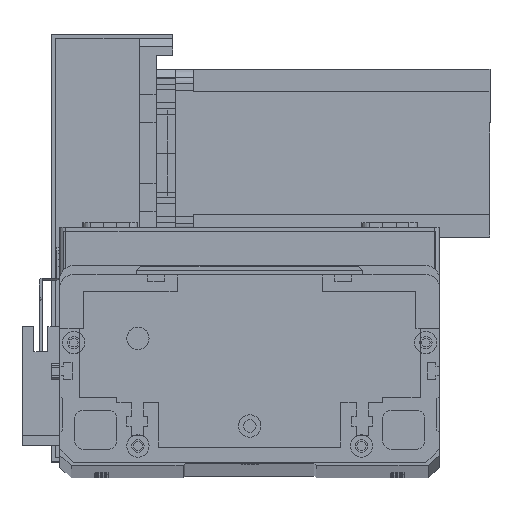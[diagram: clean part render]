
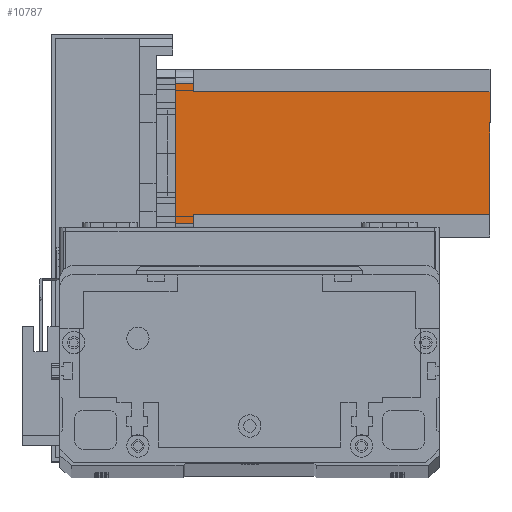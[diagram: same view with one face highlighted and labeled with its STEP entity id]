
A CAD part, top view. The second image highlights one B-rep face of the part: STEP entity #10787.
In plain terms, the highlighted planar face has unit normal (0, 0, 1) as drawn and (0, -1, 0) by its records, which use the part's own axes.
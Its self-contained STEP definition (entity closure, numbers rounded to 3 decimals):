
#87 = LINE ( 'NONE', #13329, #12113 ) ;
#624 = CARTESIAN_POINT ( 'NONE',  ( 55., 0., 0. ) ) ;
#720 = CARTESIAN_POINT ( 'NONE',  ( 8., 0., -6.5 ) ) ;
#2004 = EDGE_CURVE ( 'NONE', #5262, #24854, #10793, .T. ) ;
#3108 = VECTOR ( 'NONE', #14941, 1000. ) ;
#3176 = DIRECTION ( 'NONE',  ( 0., 0., -1. ) ) ;
#3180 = DIRECTION ( 'NONE',  ( 0., -1., 0. ) ) ;
#3463 = PLANE ( 'NONE',  #27594 ) ;
#3491 = CARTESIAN_POINT ( 'NONE',  ( 0., 0., -112.5 ) ) ;
#4127 = CARTESIAN_POINT ( 'NONE',  ( 52., 0., -112.5 ) ) ;
#4247 = LINE ( 'NONE', #5104, #23216 ) ;
#4261 = ORIENTED_EDGE ( 'NONE', *, *, #10134, .T. ) ;
#4957 = LINE ( 'NONE', #30048, #29331 ) ;
#5104 = CARTESIAN_POINT ( 'NONE',  ( 55., 0., -112.5 ) ) ;
#5262 = VERTEX_POINT ( 'NONE', #13301 ) ;
#5447 = DIRECTION ( 'NONE',  ( 0., 0., 1. ) ) ;
#6474 = VERTEX_POINT ( 'NONE', #7941 ) ;
#6553 = FACE_OUTER_BOUND ( 'NONE', #20382, .T. ) ;
#7225 = VERTEX_POINT ( 'NONE', #20981 ) ;
#7941 = CARTESIAN_POINT ( 'NONE',  ( 8., 0., -112.5 ) ) ;
#8792 = ORIENTED_EDGE ( 'NONE', *, *, #12158, .F. ) ;
#10134 = EDGE_CURVE ( 'NONE', #23799, #13361, #87, .T. ) ;
#10787 = ADVANCED_FACE ( 'NONE', ( #6553 ), #3463, .T. ) ;
#10793 = LINE ( 'NONE', #26783, #16324 ) ;
#11231 = CARTESIAN_POINT ( 'NONE',  ( 55., 0., -6.5 ) ) ;
#11401 = EDGE_CURVE ( 'NONE', #13361, #24854, #4247, .T. ) ;
#11983 = EDGE_CURVE ( 'NONE', #5262, #23112, #4957, .T. ) ;
#12050 = ORIENTED_EDGE ( 'NONE', *, *, #12981, .T. ) ;
#12113 = VECTOR ( 'NONE', #13368, 1000. ) ;
#12158 = EDGE_CURVE ( 'NONE', #7225, #23112, #24280, .T. ) ;
#12386 = EDGE_CURVE ( 'NONE', #6474, #7225, #28003, .T. ) ;
#12981 = EDGE_CURVE ( 'NONE', #6474, #27184, #20983, .T. ) ;
#13166 = EDGE_CURVE ( 'NONE', #23799, #27184, #22839, .T. ) ;
#13301 = CARTESIAN_POINT ( 'NONE',  ( 5., 0., 0. ) ) ;
#13329 = CARTESIAN_POINT ( 'NONE',  ( 52., 0., -6.5 ) ) ;
#13361 = VERTEX_POINT ( 'NONE', #11231 ) ;
#13368 = DIRECTION ( 'NONE',  ( 1., 0., 0. ) ) ;
#13935 = VECTOR ( 'NONE', #18061, 1000. ) ;
#14090 = ORIENTED_EDGE ( 'NONE', *, *, #2004, .F. ) ;
#14941 = DIRECTION ( 'NONE',  ( 0., 0., -1. ) ) ;
#14973 = CARTESIAN_POINT ( 'NONE',  ( 52., 0., -112.5 ) ) ;
#15541 = ORIENTED_EDGE ( 'NONE', *, *, #11983, .T. ) ;
#16324 = VECTOR ( 'NONE', #21221, 1000. ) ;
#17932 = VECTOR ( 'NONE', #30631, 1000. ) ;
#18061 = DIRECTION ( 'NONE',  ( 1., 0., 0. ) ) ;
#18261 = CARTESIAN_POINT ( 'NONE',  ( 0., 0., -112.5 ) ) ;
#20382 = EDGE_LOOP ( 'NONE', ( #4261, #22250, #14090, #15541, #8792, #27792, #12050, #25778 ) ) ;
#20981 = CARTESIAN_POINT ( 'NONE',  ( 8., 0., -6.5 ) ) ;
#20983 = LINE ( 'NONE', #18261, #13935 ) ;
#21221 = DIRECTION ( 'NONE',  ( 1., 0., 0. ) ) ;
#21751 = VECTOR ( 'NONE', #27059, 1000. ) ;
#22250 = ORIENTED_EDGE ( 'NONE', *, *, #11401, .T. ) ;
#22839 = LINE ( 'NONE', #14973, #3108 ) ;
#23112 = VERTEX_POINT ( 'NONE', #27443 ) ;
#23216 = VECTOR ( 'NONE', #5447, 1000. ) ;
#23799 = VERTEX_POINT ( 'NONE', #25493 ) ;
#24280 = LINE ( 'NONE', #720, #17932 ) ;
#24854 = VERTEX_POINT ( 'NONE', #624 ) ;
#25493 = CARTESIAN_POINT ( 'NONE',  ( 52., 0., -6.5 ) ) ;
#25778 = ORIENTED_EDGE ( 'NONE', *, *, #13166, .F. ) ;
#26783 = CARTESIAN_POINT ( 'NONE',  ( 0., 0., 0. ) ) ;
#27059 = DIRECTION ( 'NONE',  ( 0., 0., 1. ) ) ;
#27184 = VERTEX_POINT ( 'NONE', #4127 ) ;
#27224 = CARTESIAN_POINT ( 'NONE',  ( 8., 0., -112.5 ) ) ;
#27443 = CARTESIAN_POINT ( 'NONE',  ( 5., 0., -6.5 ) ) ;
#27594 = AXIS2_PLACEMENT_3D ( 'NONE', #3491, #3180, #3176 ) ;
#27792 = ORIENTED_EDGE ( 'NONE', *, *, #12386, .F. ) ;
#28003 = LINE ( 'NONE', #27224, #21751 ) ;
#29331 = VECTOR ( 'NONE', #29502, 1000. ) ;
#29502 = DIRECTION ( 'NONE',  ( 0., 0., -1. ) ) ;
#30048 = CARTESIAN_POINT ( 'NONE',  ( 5., 0., -112.5 ) ) ;
#30631 = DIRECTION ( 'NONE',  ( -1., 0., 0. ) ) ;
